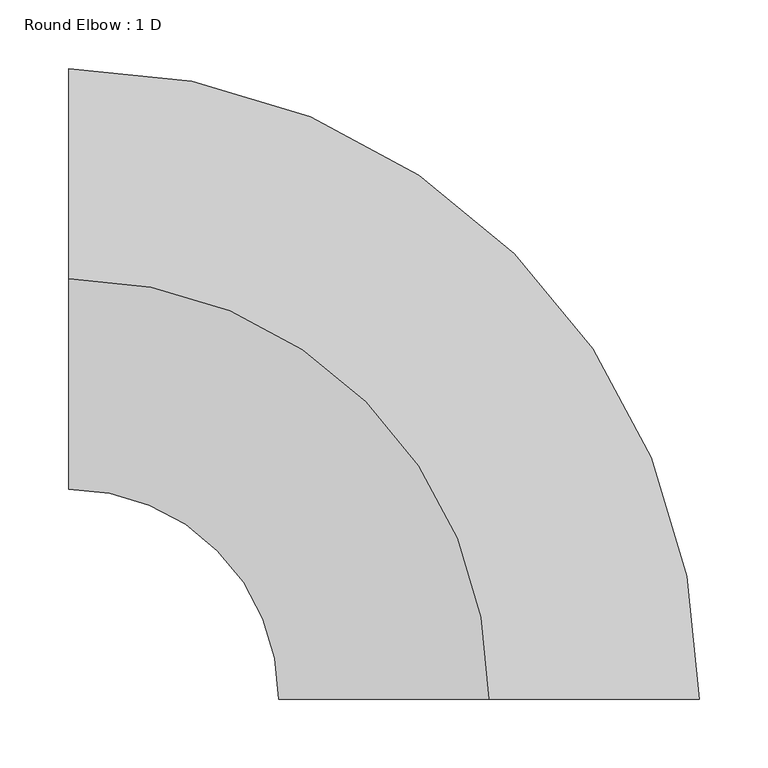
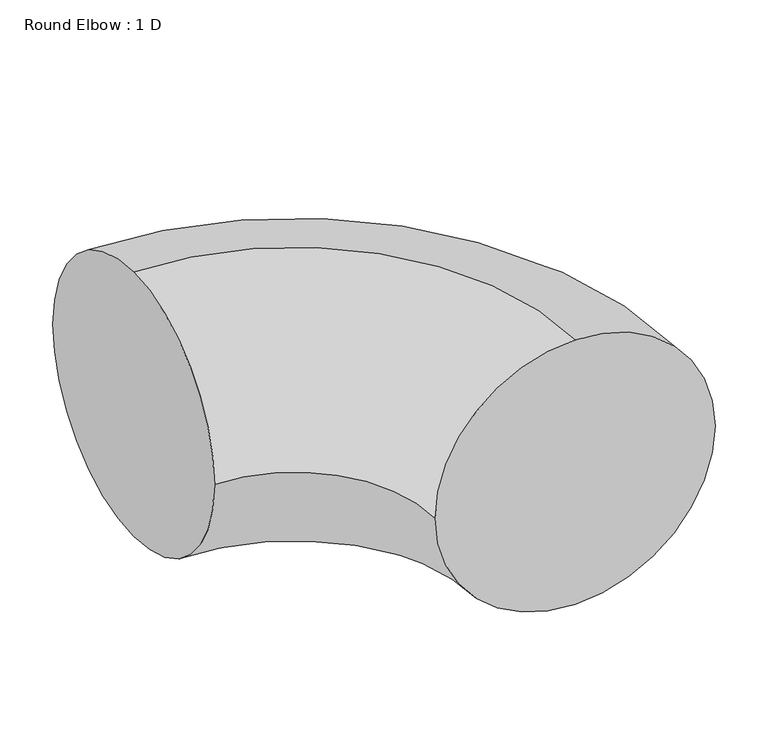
"""IFC4 building model written with IfcOpenShell, lengths in millimetres: duct fitting geometry, Round Elbow : 1 D."""

from ifc_helpers import new_model, si_unit, point, frame, origin, place, context, project, spatial, circle_curve, ellipse_curve, trimmed, source, transform, mapped, element, save
from ifc_brep_helpers import plane_surface, revolved_surface, advanced_brep


def round_elbow_1_d_dc33e73c(model_context):
    return source(origin(), model_context, "Body", "AdvancedBrep", [
        advanced_brep(
        [(-304.8, 0.0, 152.4), (-304.8, 152.4, 0.0), (-304.8, 0.0, -152.4), (-304.8, -152.4, 0.0), (0.0, -304.8, 152.4), (-152.4, -304.8, 0.0), (0.0, -304.8, -152.4), (152.4, -304.8, 0.0)],
        [
            (0, 1, circle_curve(frame((-304.8, 0.0, 0.0), z_axis=(-1.0, 0.0, 0.0), x_axis=(0.0, -1.0, 0.0)), 152.4)),
            (1, 2, circle_curve(frame((-304.8, 0.0, 0.0), z_axis=(-1.0, 0.0, 0.0), x_axis=(0.0, -1.0, 0.0)), 152.4)),
            (2, 3, circle_curve(frame((-304.8, 0.0, 0.0), z_axis=(-1.0, 0.0, 0.0), x_axis=(0.0, -1.0, 0.0)), 152.4)),
            (3, 0, circle_curve(frame((-304.8, 0.0, 0.0), z_axis=(-1.0, 0.0, 0.0), x_axis=(0.0, -1.0, 0.0)), 152.4)),
            (4, 5, circle_curve(frame((0.0, -304.8, 0.0), z_axis=(0.0, -1.0, 0.0), x_axis=(-1.0, 0.0, 0.0)), 152.4)),
            (5, 6, circle_curve(frame((0.0, -304.8, 0.0), z_axis=(0.0, -1.0, 0.0), x_axis=(-1.0, 0.0, 0.0)), 152.4)),
            (6, 7, circle_curve(frame((0.0, -304.8, 0.0), z_axis=(0.0, -1.0, 0.0), x_axis=(-1.0, 0.0, 0.0)), 152.4)),
            (7, 4, circle_curve(frame((0.0, -304.8, 0.0), z_axis=(0.0, -1.0, 0.0), x_axis=(-1.0, 0.0, 0.0)), 152.4)),
            (4, 0, circle_curve(frame((-304.8, -304.8, 152.4), z_axis=(0.0, 0.0, 1.0), x_axis=(0.0, 1.0, 0.0)), 304.8)),
            (3, 5, circle_curve(frame((-304.8, -304.8, 0.0), z_axis=(0.0, 0.0, -1.0), x_axis=(0.0, 1.0, 0.0)), 152.4)),
            (2, 6, circle_curve(frame((-304.8, -304.8, -152.4), z_axis=(0.0, 0.0, -1.0), x_axis=(0.0, 1.0, 0.0)), 304.8)),
            (1, 7, circle_curve(frame((-304.8, -304.8, 0.0), z_axis=(0.0, 0.0, -1.0), x_axis=(0.0, 1.0, 0.0)), 457.2)),
        ],
        [
            plane_surface(frame((-304.8, 0.0, 0.0), z_axis=(-1.0, 0.0, 0.0), x_axis=(0.0, 0.0, 1.0))),
            plane_surface(frame((0.0, -304.8, 0.0), z_axis=(0.0, -1.0, 0.0), x_axis=(0.0, 0.0, 1.0))),
            revolved_surface(trimmed(ellipse_curve(frame((-304.8, 0.0, 0.0), z_axis=(1.0, 0.0, 0.0), x_axis=(0.0, -1.0, 0.0)), 152.4, 152.4), [point((-304.8, 0.0, 152.4))], [point((-304.8, -152.4, 0.0))], True, "CARTESIAN"), (-304.8, -304.8, 0.0), (0.0, 0.0, 1.0)),
            revolved_surface(trimmed(ellipse_curve(frame((-304.8, 0.0, 0.0), z_axis=(1.0, 0.0, 0.0), x_axis=(0.0, -1.0, 0.0)), 152.4, 152.4), [point((-304.8, -152.4, 0.0))], [point((-304.8, 0.0, -152.4))], True, "CARTESIAN"), (-304.8, -304.8, 0.0), (0.0, 0.0, 1.0)),
            revolved_surface(trimmed(ellipse_curve(frame((-304.8, 0.0, 0.0), z_axis=(1.0, 0.0, 0.0), x_axis=(0.0, -1.0, 0.0)), 152.4, 152.4), [point((-304.8, 0.0, -152.4))], [point((-304.8, 152.4, 0.0))], True, "CARTESIAN"), (-304.8, -304.8, 0.0), (0.0, 0.0, 1.0)),
            revolved_surface(trimmed(ellipse_curve(frame((-304.8, 0.0, 0.0), z_axis=(1.0, 0.0, 0.0), x_axis=(0.0, -1.0, 0.0)), 152.4, 152.4), [point((-304.8, 152.4, 0.0))], [point((-304.8, 0.0, 152.4))], True, "CARTESIAN"), (-304.8, -304.8, 0.0), (0.0, 0.0, 1.0)),
        ],
        [
            (0, [[1, 2, 3, 4]]),
            (1, [[5, 6, 7, 8]]),
            (2, [[-5, 9, -4, 10]]),
            (3, [[-6, -10, -3, 11]]),
            (4, [[-7, -11, -2, 12]]),
            (5, [[-8, -12, -1, -9]]),
        ],
    ),
    ])


if __name__ == "__main__":
    model = new_model("IFC4")
    model_context = context("Model", 3, world=origin())
    ifc_project = project(units=[si_unit("LENGTHUNIT", "METRE", prefix="MILLI")], contexts=[model_context])
    site = spatial("IfcSite", under=ifc_project)
    building = spatial("IfcBuilding", under=site)
    placement = place(None, origin())
    round_elbow_1_d_shape = round_elbow_1_d_dc33e73c(model_context)
    element("IfcDuctFitting", 1, ObjectType="Round Elbow : 1 D", at=placement, inside=building, context=model_context, shape_type="MappedRepresentation", body=[
        mapped(round_elbow_1_d_shape, transform((0.0, 0.0, 0.0), x_axis=(1.0, 0.0, 0.0), y_axis=(0.0, 1.0, 0.0), z_axis=(0.0, 0.0, 1.0))),
    ])
    save(model, "model.ifc")
